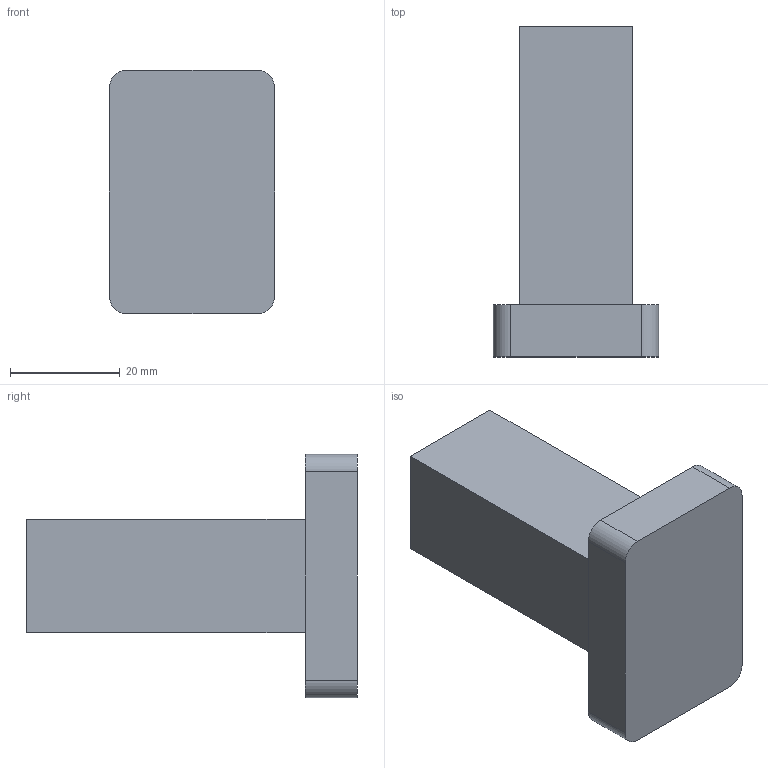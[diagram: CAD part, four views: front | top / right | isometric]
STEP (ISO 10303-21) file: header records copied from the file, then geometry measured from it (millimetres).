
FILE_DESCRIPTION(/* description */ (''),/* implementation_level */ '2;1');
FILE_NAME(/* name */ 'L213S.step',/* time_stamp */ '2026-06-19T17:05:45-05:00',/* author */ (''),/* organization */ (''),/* preprocessor_version */ 'ST-DEVELOPER v20.1',/* originating_system */ 'Autodesk Translation Framework v15.8.0.0',/* authorisation */ '');
FILE_SCHEMA (('AUTOMOTIVE_DESIGN { 1 0 10303 214 3 1 1 }'));
Length unit declared in the file: inch
Products named in the file (1): 2026-06-19-16-57-36-893
Bounding box: 30.16 x 60.33 x 44.45 mm (x, y, z)
Volume: 34324 mm3; surface area: 8227.1 mm2
Topology: 1 solids, 1 shells, 15 faces, 36 edges, 24 vertices
Faces by surface type: plane 11, cylinder 4
Entity records: 473 total; most frequent: DIRECTION 76, CARTESIAN_POINT 76, ORIENTED_EDGE 72, EDGE_CURVE 36, LINE 28, VECTOR 28, VERTEX_POINT 24, AXIS2_PLACEMENT_3D 24
